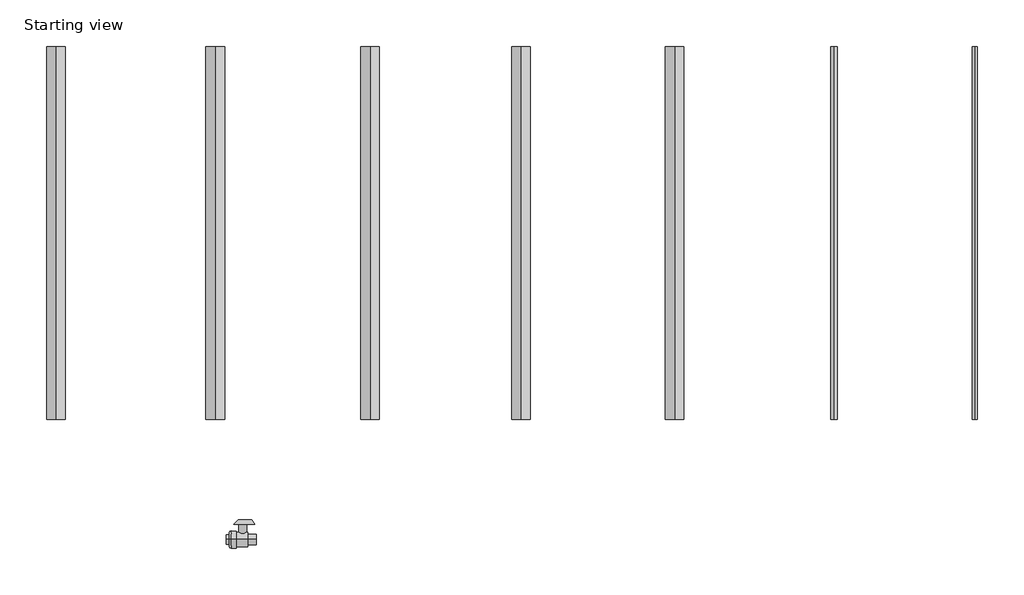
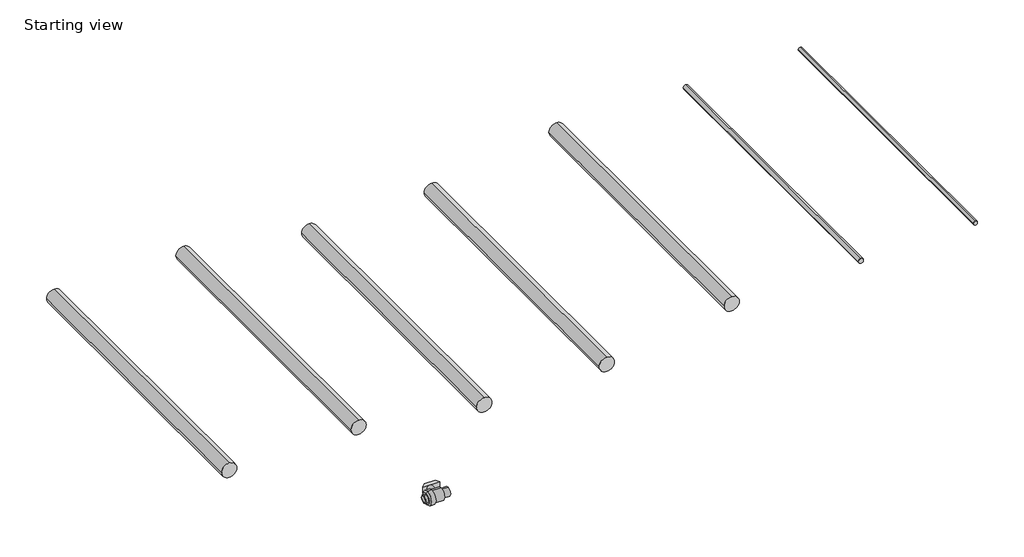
# One storey, incomplete: 7 pipe segments, 1 pipe fitting.
"""IFC4 building model written with IfcOpenShell, lengths in millimetres."""

import ifcopenshell
import ifcopenshell.guid

model = None  # the IFC model being written
_history = None  # IfcOwnerHistory: only IFC2X3 demands one
_inside = {}  # id of a spatial element -> (the spatial element, [elements in it])
_under = {}  # id of a project, library or spatial element -> (it, [spatial elements below it])
_declared = {}  # id of a project -> (the project, [libraries it declares])
_typed = {}  # id of a type object -> (the type object, [elements of that type])
_made_of = {}  # id of a material, layer set ... -> (it, [elements and type objects made of it])


def new_model(schema):
    """Start an empty IFC model of exactly this schema.

    Asked for "IFC4X3", IfcOpenShell would pick the latest addendum, in which some entities
    have other attributes; the version numbers below select the first issue.
    IFC2X3 requires an IfcOwnerHistory on every rooted entity: one is made here for all.
    """
    global model, _history
    if schema == "IFC4X3":
        model = ifcopenshell.file(schema_version=(4, 3, 0, 0))
    else:
        model = ifcopenshell.file(schema=schema)
    _inside.clear()
    _under.clear()
    _declared.clear()
    _typed.clear()
    _made_of.clear()
    _history = None
    if model.schema == "IFC2X3":
        org = make("IfcOrganization", Name="unknown")
        user = make(
            "IfcPersonAndOrganization",
            ThePerson=make("IfcPerson", FamilyName="unknown"),
            TheOrganization=org,
        )
        app = make(
            "IfcApplication",
            ApplicationDeveloper=org,
            Version="unknown",
            ApplicationFullName="unknown",
            ApplicationIdentifier="unknown",
        )
        _history = make(
            "IfcOwnerHistory",
            OwningUser=user,
            OwningApplication=app,
            ChangeAction="ADDED",
            CreationDate=0,
        )
    return model


def make(cls, **values):
    """One entity of the class cls with the attributes given. An attribute that is None is left unset."""
    return model.create_entity(
        cls, **{name: value for name, value in values.items() if value is not None}
    )


def rooted(cls, **values):
    """An entity with a GlobalId (a new one), such as an element, a storey or a relation."""
    return make(cls, GlobalId=ifcopenshell.guid.new(), OwnerHistory=_history, **values)


def si_unit(unit_type, name, prefix=None):
    """IfcSIUnit, for example si_unit("LENGTHUNIT", "METRE", prefix="MILLI")."""
    return make("IfcSIUnit", UnitType=unit_type, Prefix=prefix, Name=name)


def assignment(units):
    """IfcUnitAssignment: the units of a project."""
    return None if units is None else make("IfcUnitAssignment", Units=units)


def point(xyz):
    """IfcCartesianPoint."""
    return None if xyz is None else make("IfcCartesianPoint", Coordinates=xyz)


def direction(xyz):
    """IfcDirection."""
    return None if xyz is None else make("IfcDirection", DirectionRatios=xyz)


def frame(location, z_axis=None, x_axis=None):
    """IfcAxis2Placement3D, a coordinate frame: its origin and axes. An axis left out is left unset."""
    return make(
        "IfcAxis2Placement3D",
        Location=point(location),
        Axis=direction(z_axis),
        RefDirection=direction(x_axis),
    )


def frame_2d(location, x_axis=None):
    """IfcAxis2Placement2D, a coordinate frame in the plane: its origin and x axis."""
    return make(
        "IfcAxis2Placement2D", Location=point(location), RefDirection=direction(x_axis)
    )


def origin():
    """The frame at (0, 0, 0) with its axes left unset."""
    return frame((0.0, 0.0, 0.0))


def origin_with_axes():
    """The frame at (0, 0, 0) with the z axis (0, 0, 1) and the x axis (1, 0, 0) written out."""
    return frame((0.0, 0.0, 0.0), z_axis=(0.0, 0.0, 1.0), x_axis=(1.0, 0.0, 0.0))


def place(relative_to, where):
    """IfcLocalPlacement: puts the frame where relative to a parent placement (None: the world)."""
    return make(
        "IfcLocalPlacement", PlacementRelTo=relative_to, RelativePlacement=where
    )


def context(
    kind, dimensions, precision=None, world=None, true_north=None, identifier=None
):
    """IfcGeometricRepresentationContext, for example the 3D "Model" context."""
    return make(
        "IfcGeometricRepresentationContext",
        ContextIdentifier=identifier,
        ContextType=kind,
        CoordinateSpaceDimension=dimensions,
        Precision=precision,
        WorldCoordinateSystem=world,
        TrueNorth=true_north,
    )


def project(units=None, contexts=None):
    """IfcProject with its units and contexts."""
    return rooted(
        "IfcProject",
        Name="project",
        RepresentationContexts=contexts,
        UnitsInContext=assignment(units),
    )


def spatial(cls, under=None, at=None, **own):
    """A site, building, storey or space (cls), placed at a placement, below another one or the project."""
    s = rooted(cls, ObjectPlacement=at, **own)
    if under is not None:
        _under.setdefault(under.id(), (under, []))[1].append(s)
    return s


def polyline(points):
    """IfcPolyline through the points."""
    return make("IfcPolyline", Points=[point(p) for p in points])


def circle_curve(where, radius):
    """IfcCircle in the frame where."""
    return make("IfcCircle", Position=where, Radius=radius)


def ellipse_curve(where, semi_axis1, semi_axis2):
    """IfcEllipse in the frame where."""
    return make(
        "IfcEllipse", Position=where, SemiAxis1=semi_axis1, SemiAxis2=semi_axis2
    )


def trimmed(basis, trim1, trim2, sense, master):
    """IfcTrimmedCurve: the piece of a basis curve between two trims."""
    return make(
        "IfcTrimmedCurve",
        BasisCurve=basis,
        Trim1=trim1,
        Trim2=trim2,
        SenseAgreement=sense,
        MasterRepresentation=master,
    )


def segment(curve, same_sense, transition):
    """IfcCompositeCurveSegment."""
    return make(
        "IfcCompositeCurveSegment",
        Transition=transition,
        SameSense=same_sense,
        ParentCurve=curve,
    )


def composite_curve(segments, self_intersect=None):
    """IfcCompositeCurve: segments joined end to end."""
    return make("IfcCompositeCurve", Segments=segments, SelfIntersect=self_intersect)


def outline(outer, holes=None, kind="AREA"):
    """IfcArbitraryClosedProfileDef: a profile drawn as a closed curve; with holes, ...WithVoids."""
    if holes is None:
        return make("IfcArbitraryClosedProfileDef", ProfileType=kind, OuterCurve=outer)
    return make(
        "IfcArbitraryProfileDefWithVoids",
        ProfileType=kind,
        OuterCurve=outer,
        InnerCurves=holes,
    )


def extrude(swept, where, along, depth):
    """IfcExtrudedAreaSolid: the profile swept, set in the frame where, extruded along a direction by depth."""
    return make(
        "IfcExtrudedAreaSolid",
        SweptArea=swept,
        Position=where,
        ExtrudedDirection=direction(along),
        Depth=depth,
    )


def shape(context_of_items, identifier, shape_type, items):
    """IfcShapeRepresentation: the items that make up one representation, for example the "Body"."""
    return make(
        "IfcShapeRepresentation",
        ContextOfItems=context_of_items,
        RepresentationIdentifier=identifier,
        RepresentationType=shape_type,
        Items=items,
    )


def source(mapping_origin, context_of_items, identifier, shape_type, items):
    """IfcRepresentationMap: a shape defined once, which mapped items show again and again."""
    return make(
        "IfcRepresentationMap",
        MappingOrigin=mapping_origin,
        MappedRepresentation=shape(context_of_items, identifier, shape_type, items),
    )


def transform(
    local_origin,
    x_axis=None,
    y_axis=None,
    z_axis=None,
    scale=None,
    scale2=None,
    scale3=None,
    uniform=True,
):
    """IfcCartesianTransformationOperator3D, or its non-uniform kind. x_axis, y_axis, z_axis: its Axis1, 2, 3."""
    if uniform:
        return make(
            "IfcCartesianTransformationOperator3D",
            Axis1=direction(x_axis),
            Axis2=direction(y_axis),
            LocalOrigin=point(local_origin),
            Scale=scale,
            Axis3=direction(z_axis),
        )
    return make(
        "IfcCartesianTransformationOperator3DnonUniform",
        Axis1=direction(x_axis),
        Axis2=direction(y_axis),
        LocalOrigin=point(local_origin),
        Scale=scale,
        Axis3=direction(z_axis),
        Scale2=scale2,
        Scale3=scale3,
    )


def mapped(mapping_source, mapping_target):
    """IfcMappedItem: shows the shape of a source again, moved by a transform."""
    return make(
        "IfcMappedItem", MappingSource=mapping_source, MappingTarget=mapping_target
    )


def made_of(thing, what):
    """Note that an element or type object is made of a material, layer set ...; save() writes the relation."""
    if what is not None:
        _made_of.setdefault(what.id(), (what, []))[1].append(thing)
    return thing


def element(
    cls,
    number,
    at=None,
    inside=None,
    cuts=None,
    type_object=None,
    material=None,
    context=None,
    identifier="Body",
    shape_type=None,
    held_by="IfcProductDefinitionShape",
    body=None,
    shapes=None,
    **own,
):
    """One element of the class cls, such as IfcWall. Its Tag is "e" and its number.

    at: its placement. inside: the storey or other place that contains it. cuts: it is an
    opening in that element (IfcRelVoidsElement). A single representation is given by context,
    identifier, shape_type and body (its items); several are given by shapes. held_by: the class
    of the entity that holds the representations. save() writes the other relations.
    """
    e = rooted(cls, Tag="e%d" % number, ObjectPlacement=at, **own)
    if body is not None:
        shapes = [shape(context, identifier, shape_type, body)]
    if shapes is not None:
        e.Representation = make(held_by, Representations=shapes)
    if inside is not None:
        _inside.setdefault(inside.id(), (inside, []))[1].append(e)
    if cuts is not None:
        rooted(
            "IfcRelVoidsElement", RelatingBuildingElement=cuts, RelatedOpeningElement=e
        )
    if type_object is not None:
        _typed.setdefault(type_object.id(), (type_object, []))[1].append(e)
    return made_of(e, material)


def aggregate(whole, parts):
    """IfcRelAggregates: a whole, such as a stair, and the parts it consists of."""
    return rooted("IfcRelAggregates", RelatingObject=whole, RelatedObjects=parts)


def save(model, path):
    """Write the relations noted so far, then the file.

    IfcRelAggregates (storeys below a building ...), IfcRelContainedInSpatialStructure (elements
    in a storey), IfcRelDefinesByType, IfcRelAssociatesMaterial and IfcRelDeclares: one each for
    every whole, place, type object, material and project.
    """
    for whole, parts in _under.values():
        aggregate(whole, parts)
    for where, things in _inside.values():
        rooted(
            "IfcRelContainedInSpatialStructure",
            RelatedElements=things,
            RelatingStructure=where,
        )
    for kind, things in _typed.values():
        rooted("IfcRelDefinesByType", RelatedObjects=things, RelatingType=kind)
    for what, things in _made_of.values():
        rooted("IfcRelAssociatesMaterial", RelatedObjects=things, RelatingMaterial=what)
    for by, libraries in _declared.values():
        rooted("IfcRelDeclares", RelatingContext=by, RelatedDefinitions=libraries)
    model.write(path)


def plane_surface(at):
    """IfcPlane: the flat surface through the origin of the frame at, square to its z axis."""
    return make("IfcPlane", Position=at)


def cylinder_surface(at, radius):
    """IfcCylindricalSurface: all points at the distance radius from the z axis of the frame at."""
    return make("IfcCylindricalSurface", Position=at, Radius=radius)


def revolved_surface(curve, axis_point, axis_direction):
    """IfcSurfaceOfRevolution: the curve turned about the line through axis_point along axis_direction."""
    return make(
        "IfcSurfaceOfRevolution",
        SweptCurve=make("IfcArbitraryOpenProfileDef", ProfileType="CURVE", Curve=curve),
        AxisPosition=make("IfcAxis1Placement", Location=point(axis_point), Axis=direction(axis_direction)),
    )


def advanced_brep(points, edges, surfaces, faces):
    """IfcAdvancedBrep: a solid bounded by faces that lie on surfaces and meet in shared edges.

    An edge is (start, end): straight between two places in points (the first is 0);
    or (start, end, curve); or (start, end, curve, False) where it runs against its curve.
    A face is (place in surfaces, loops), or (place, loops, False) where it looks against
    its surface's normal. A loop lists edges by number (the first is 1), with a minus sign
    where the edge is run from its end to its start. The first loop is the outer one.
    """
    corners = [point(p) for p in points]
    vertices = [make("IfcVertexPoint", VertexGeometry=c) for c in corners]
    made = []
    for start, end, *more in edges:
        made.append(
            make(
                "IfcEdgeCurve",
                EdgeStart=vertices[start],
                EdgeEnd=vertices[end],
                EdgeGeometry=more[0] if more else make("IfcPolyline", Points=[corners[start], corners[end]]),
                SameSense=more[1] if len(more) > 1 else True,
            )
        )
    hull = []
    for where, loops, *sense in faces:
        bounds = []
        for j, loop in enumerate(loops):
            ring = [make("IfcOrientedEdge", EdgeElement=made[abs(k) - 1], Orientation=k > 0) for k in loop]
            bounds.append(
                make(
                    "IfcFaceOuterBound" if j == 0 else "IfcFaceBound",
                    Bound=make("IfcEdgeLoop", EdgeList=ring),
                    Orientation=True,
                )
            )
        hull.append(make("IfcAdvancedFace", Bounds=bounds, FaceSurface=surfaces[where], SameSense=sense[0] if sense else True))
    return make("IfcAdvancedBrep", Outer=make("IfcClosedShell", CfsFaces=hull))


def var_ca1771e9(model_context):
    return source(origin(), model_context, "Body", "SolidModel", [
        extrude(outline(polyline([(61.7, -106.5026442), (61.7, -21.6526442), (79.8261557, -34.3447151), (79.8261557, -87.300279), (61.7, -106.5026442)])), frame((0.0, -15.775, 0.0), z_axis=(0.0, 1.0, 0.0), x_axis=(0.0, 0.0, 1.0)), (0.0, 0.0, 1.0), 31.55),
        extrude(outline(composite_curve([segment(trimmed(circle_curve(frame_2d((-70.4026442, 0.0)), 15.775), [point((-86.1776442, 0.0))], [point((-54.6276442, 0.0))], False, "CARTESIAN"), True, "CONTINUOUS"), segment(trimmed(circle_curve(frame_2d((-70.4026442, 0.0)), 15.775), [point((-54.6276442, 0.0))], [point((-86.1776442, 0.0))], False, "CARTESIAN"), True, "CONTINUOUS")], self_intersect=False)), origin_with_axes(), (0.0, 0.0, 1.0), 61.7),
        advanced_brep(
        [(-112.8026442, -16.15, 0.0), (-112.8026442, 16.15, 0.0), (-136.6526442, 16.15, 0.0), (-136.6526442, -16.15, 0.0), (-112.8026442, 0.0, 0.0), (-49.5526442, -16.15, 0.0), (-49.5526442, 16.15, 0.0), (-49.5526442, 0.0, 0.0), (-15.3026442, -16.15, 0.0), (-15.3026442, 16.15, 0.0), (-15.3026442, -21.81, 0.0), (-15.3026442, 21.81, 0.0), (-49.5526442, -21.81, 0.0), (-49.5526442, 21.81, 0.0), (-49.5526442, -30.09, 0.0), (-49.5526442, 30.09, 0.0), (-95.4526442, -30.09, 0.0), (-95.4526442, 30.09, 0.0), (-95.4526442, -35.4, 0.0), (-95.4526442, 35.4, 0.0), (-116.7478823, -35.4, 0.0), (-116.7478823, 35.4, 0.0), (-123.4026442, -28.7452381, 0.0), (-123.4026442, 28.7452381, 0.0), (-123.4026442, -20.05, 0.0), (-123.4026442, 20.05, 0.0), (-136.6526442, -20.05, 0.0), (-136.6526442, 20.05, 0.0)],
        [
            (0, 1, circle_curve(frame((-112.8026442, 0.0, 0.0), z_axis=(1.0, 0.0, 0.0), x_axis=(0.0, 1.0, 0.0)), 16.15)),
            (1, 2),
            (2, 3, circle_curve(frame((-136.6526442, 0.0, 0.0), z_axis=(-1.0, 0.0, 0.0), x_axis=(0.0, 1.0, 0.0)), 16.15)),
            (3, 0),
            (1, 0, circle_curve(frame((-112.8026442, 0.0, 0.0), z_axis=(1.0, 0.0, 0.0), x_axis=(0.0, 1.0, 0.0)), 16.15)),
            (3, 2, circle_curve(frame((-136.6526442, 0.0, 0.0), z_axis=(-1.0, 0.0, 0.0), x_axis=(0.0, 1.0, 0.0)), 16.15)),
            (4, 1),
            (0, 4),
            (5, 6, circle_curve(frame((-49.5526442, 0.0, 0.0), z_axis=(1.0, 0.0, 0.0), x_axis=(0.0, 1.0, 0.0)), 16.15)),
            (6, 7),
            (7, 5),
            (6, 5, circle_curve(frame((-49.5526442, 0.0, 0.0), z_axis=(1.0, 0.0, 0.0), x_axis=(0.0, 1.0, 0.0)), 16.15)),
            (8, 9, circle_curve(frame((-15.3026442, 0.0, 0.0), z_axis=(1.0, 0.0, 0.0), x_axis=(0.0, 1.0, 0.0)), 16.15)),
            (9, 6),
            (5, 8),
            (9, 8, circle_curve(frame((-15.3026442, 0.0, 0.0), z_axis=(1.0, 0.0, 0.0), x_axis=(0.0, 1.0, 0.0)), 16.15)),
            (10, 11, circle_curve(frame((-15.3026442, 0.0, 0.0), z_axis=(1.0, 0.0, 0.0), x_axis=(0.0, 1.0, 0.0)), 21.81)),
            (11, 9),
            (8, 10),
            (11, 10, circle_curve(frame((-15.3026442, 0.0, 0.0), z_axis=(1.0, 0.0, 0.0), x_axis=(0.0, 1.0, 0.0)), 21.81)),
            (12, 13, circle_curve(frame((-49.5526442, 0.0, 0.0), z_axis=(1.0, 0.0, 0.0), x_axis=(0.0, 1.0, 0.0)), 21.81)),
            (13, 11),
            (10, 12),
            (13, 12, circle_curve(frame((-49.5526442, 0.0, 0.0), z_axis=(1.0, 0.0, 0.0), x_axis=(0.0, 1.0, 0.0)), 21.81)),
            (14, 15, circle_curve(frame((-49.5526442, 0.0, 0.0), z_axis=(1.0, 0.0, 0.0), x_axis=(0.0, 1.0, 0.0)), 30.09)),
            (15, 13),
            (12, 14),
            (15, 14, circle_curve(frame((-49.5526442, 0.0, 0.0), z_axis=(1.0, 0.0, 0.0), x_axis=(0.0, 1.0, 0.0)), 30.09)),
            (16, 17, circle_curve(frame((-95.4526442, 0.0, 0.0), z_axis=(1.0, 0.0, 0.0), x_axis=(0.0, 1.0, 0.0)), 30.09)),
            (17, 15),
            (14, 16),
            (17, 16, circle_curve(frame((-95.4526442, 0.0, 0.0), z_axis=(1.0, 0.0, 0.0), x_axis=(0.0, 1.0, 0.0)), 30.09)),
            (18, 19, circle_curve(frame((-95.4526442, 0.0, 0.0), z_axis=(1.0, 0.0, 0.0), x_axis=(0.0, 1.0, 0.0)), 35.4)),
            (19, 17),
            (16, 18),
            (19, 18, circle_curve(frame((-95.4526442, 0.0, 0.0), z_axis=(1.0, 0.0, 0.0), x_axis=(0.0, 1.0, 0.0)), 35.4)),
            (20, 21, circle_curve(frame((-116.7478823, 0.0, 0.0), z_axis=(1.0, 0.0, 0.0), x_axis=(0.0, 1.0, 0.0)), 35.4)),
            (21, 19),
            (18, 20),
            (21, 20, circle_curve(frame((-116.7478823, 0.0, 0.0), z_axis=(1.0, 0.0, 0.0), x_axis=(0.0, 1.0, 0.0)), 35.4)),
            (22, 23, circle_curve(frame((-123.4026442, 0.0, 0.0), z_axis=(1.0, 0.0, 0.0), x_axis=(0.0, 1.0, 0.0)), 28.7452381)),
            (23, 21, circle_curve(frame((-116.7478823, 28.7452381, 0.0), z_axis=(0.0, 0.0, -1.0), x_axis=(1.0, 0.0, 0.0)), 6.6547619)),
            (20, 22, circle_curve(frame((-116.7478823, -28.7452381, 0.0), z_axis=(0.0, 0.0, -1.0), x_axis=(1.0, 0.0, 0.0)), 6.6547619)),
            (23, 22, circle_curve(frame((-123.4026442, 0.0, 0.0), z_axis=(1.0, 0.0, 0.0), x_axis=(0.0, 1.0, 0.0)), 28.7452381)),
            (24, 25, circle_curve(frame((-123.4026442, 0.0, 0.0), z_axis=(1.0, 0.0, 0.0), x_axis=(0.0, 1.0, 0.0)), 20.05)),
            (25, 23),
            (22, 24),
            (25, 24, circle_curve(frame((-123.4026442, 0.0, 0.0), z_axis=(1.0, 0.0, 0.0), x_axis=(0.0, 1.0, 0.0)), 20.05)),
            (26, 27, circle_curve(frame((-136.6526442, 0.0, 0.0), z_axis=(1.0, 0.0, 0.0), x_axis=(0.0, 1.0, 0.0)), 20.05)),
            (27, 25),
            (24, 26),
            (27, 26, circle_curve(frame((-136.6526442, 0.0, 0.0), z_axis=(1.0, 0.0, 0.0), x_axis=(0.0, 1.0, 0.0)), 20.05)),
            (2, 27),
            (26, 3),
        ],
        [
            revolved_surface(polyline([(-136.65264419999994, 16.15, 0.0), (-112.80264420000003, 16.15, 0.0)]), (-2066.1526442, 0.0, 0.0), (-1.0, 0.0, 0.0)),
            plane_surface(frame((-112.8026442, 0.0, 0.0), z_axis=(-1.0, 0.0, 0.0), x_axis=(0.0, 1.0, 0.0))),
            plane_surface(frame((-49.5526442, 0.0, 0.0), z_axis=(1.0, 0.0, 0.0), x_axis=(0.0, 1.0, 0.0))),
            revolved_surface(polyline([(-49.55264420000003, 16.15, 0.0), (-15.302644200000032, 16.15, 0.0)]), (-2066.1526442, 0.0, 0.0), (-1.0, 0.0, 0.0)),
            plane_surface(frame((-15.3026442, 0.0, 0.0), z_axis=(1.0, 0.0, 0.0), x_axis=(0.0, 1.0, 0.0))),
            cylinder_surface(frame((-2066.1526442, 0.0, 0.0), z_axis=(-1.0, 0.0, 0.0), x_axis=(0.0, 1.0, 0.0)), 21.81),
            cylinder_surface(frame((-2066.1526442, 0.0, 0.0), z_axis=(-1.0, 0.0, 0.0), x_axis=(0.0, 1.0, 0.0)), 30.09),
            plane_surface(frame((-95.4526442, 0.0, 0.0), z_axis=(1.0, 0.0, 0.0), x_axis=(0.0, 1.0, 0.0))),
            cylinder_surface(frame((-2066.1526442, 0.0, 0.0), z_axis=(-1.0, 0.0, 0.0), x_axis=(0.0, 1.0, 0.0)), 35.4),
            revolved_surface(trimmed(ellipse_curve(frame((-116.7478823, 28.7452381, 0.0), z_axis=(0.0, 0.0, 1.0), x_axis=(1.0, 0.0, 0.0)), 6.6547619, 6.6547619), [point((-116.7478823, 35.4, 0.0))], [point((-123.4026442, 28.7452381, 0.0))], True, "CARTESIAN"), (-2066.1526442, 0.0, 0.0), (-1.0, 0.0, 0.0)),
            plane_surface(frame((-123.4026442, 0.0, 0.0), z_axis=(-1.0, 0.0, 0.0), x_axis=(0.0, 1.0, 0.0))),
            cylinder_surface(frame((-2066.1526442, 0.0, 0.0), z_axis=(-1.0, 0.0, 0.0), x_axis=(0.0, 1.0, 0.0)), 20.05),
            plane_surface(frame((-136.6526442, 0.0, 0.0), z_axis=(-1.0, 0.0, 0.0), x_axis=(0.0, 1.0, 0.0))),
        ],
        [
            (0, [[1, 2, 3, 4]]),
            (0, [[5, -4, 6, -2]]),
            (1, [[7, -1, 8]]),
            (1, [[-8, -5, -7]]),
            (2, [[9, 10, 11]]),
            (2, [[12, -11, -10]]),
            (3, [[13, 14, -9, 15]]),
            (3, [[16, -15, -12, -14]]),
            (4, [[17, 18, -13, 19]]),
            (4, [[20, -19, -16, -18]]),
            (5, [[21, 22, -17, 23]]),
            (5, [[24, -23, -20, -22]]),
            (2, [[25, 26, -21, 27]]),
            (2, [[28, -27, -24, -26]]),
            (6, [[29, 30, -25, 31]]),
            (6, [[32, -31, -28, -30]]),
            (7, [[33, 34, -29, 35]]),
            (7, [[36, -35, -32, -34]]),
            (8, [[37, 38, -33, 39]]),
            (8, [[40, -39, -36, -38]]),
            (9, [[41, 42, -37, 43]]),
            (9, [[44, -43, -40, -42]]),
            (10, [[45, 46, -41, 47]]),
            (10, [[48, -47, -44, -46]]),
            (11, [[49, 50, -45, 51]]),
            (11, [[52, -51, -48, -50]]),
            (12, [[-3, 53, -49, 54]]),
            (12, [[-6, -54, -52, -53]]),
        ],
    ),
    ])


model = new_model("IFC4")

# Units and contexts
model_context = context("Model", 3, world=origin())
ifc_project = project(units=[si_unit("LENGTHUNIT", "METRE", prefix="MILLI")], contexts=[model_context])

# Site, building, storey
site = spatial("IfcSite", under=ifc_project)
building = spatial("IfcBuilding", under=site)
storey = spatial("IfcBuildingStorey", under=building, Name="Starting view", Elevation=0.0)

# Pipe fitting
placement = place(None, origin())
var_shape = var_ca1771e9(model_context)
element("IfcPipeFitting", 1, ObjectType="PlastigamaWavin_Unionesdetubería_PresiónPVC_VálvulaBola20mm-90mm : Var.", at=placement, inside=storey, context=model_context, shape_type="MappedRepresentation", body=[
    mapped(var_shape, transform((-18512.5741365, 14555.0905579, 0.0), x_axis=(1.0, 0.0, 0.0), y_axis=(0.0, 0.0, -1.0), z_axis=(0.0, 1.0, 0.0))),
])

# Pipe segments
element("IfcPipeSegment", 2, ObjectType="Plastigama Presión Espigo Campana 0.8MPa", at=placement, inside=storey, context=model_context, shape_type="SweptSolid", body=[
    extrude(outline(composite_curve([segment(trimmed(circle_curve(frame_2d((0.0, -18070.689296)), 37.5), [point((0.0, -18108.189296))], [point((-37.5, -18070.689296))], False, "CARTESIAN"), True, "CONTINUOUS"), segment(trimmed(circle_curve(frame_2d((0.0, -18070.689296)), 37.5), [point((-37.5, -18070.689296))], [point((0.0, -18033.189296))], False, "CARTESIAN"), True, "CONTINUOUS"), segment(trimmed(circle_curve(frame_2d((0.0, -18070.689296)), 37.5), [point((0.0, -18033.189296))], [point((37.5, -18070.689296))], False, "CARTESIAN"), True, "CONTINUOUS"), segment(trimmed(circle_curve(frame_2d((0.0, -18070.689296)), 37.5), [point((37.5, -18070.689296))], [point((0.0, -18108.189296))], False, "CARTESIAN"), True, "CONTINUOUS")], self_intersect=False)), frame((0.0, 15037.6709808, 0.0), z_axis=(0.0, 1.0, 0.0), x_axis=(0.0, 0.0, 1.0)), (0.0, 0.0, 1.0), 1500.0),
])
element("IfcPipeSegment", 3, ObjectType="Plastigama Presión Espigo Campana 1.0MPa", at=placement, inside=storey, context=model_context, shape_type="SweptSolid", body=[
    extrude(outline(composite_curve([segment(trimmed(circle_curve(frame_2d((0.0, -17464.3434847)), 37.5), [point((0.0, -17501.8434847))], [point((-37.5, -17464.3434847))], False, "CARTESIAN"), True, "CONTINUOUS"), segment(trimmed(circle_curve(frame_2d((0.0, -17464.3434847)), 37.5), [point((-37.5, -17464.3434847))], [point((0.0, -17426.8434847))], False, "CARTESIAN"), True, "CONTINUOUS"), segment(trimmed(circle_curve(frame_2d((0.0, -17464.3434847)), 37.5), [point((0.0, -17426.8434847))], [point((37.5, -17464.3434847))], False, "CARTESIAN"), True, "CONTINUOUS"), segment(trimmed(circle_curve(frame_2d((0.0, -17464.3434847)), 37.5), [point((37.5, -17464.3434847))], [point((0.0, -17501.8434847))], False, "CARTESIAN"), True, "CONTINUOUS")], self_intersect=False)), frame((0.0, 15037.6709808, 0.0), z_axis=(0.0, 1.0, 0.0), x_axis=(0.0, 0.0, 1.0)), (0.0, 0.0, 1.0), 1500.0),
])
element("IfcPipeSegment", 4, ObjectType="Plastigama Presión Espigo Campana 0.63MPa", at=placement, inside=storey, context=model_context, shape_type="SweptSolid", body=[
    extrude(outline(composite_curve([segment(trimmed(circle_curve(frame_2d((100.0, -18692.8292461)), 37.5), [point((100.0, -18730.3292461))], [point((62.5, -18692.8292461))], False, "CARTESIAN"), True, "CONTINUOUS"), segment(trimmed(circle_curve(frame_2d((100.0, -18692.8292461)), 37.5), [point((62.5, -18692.8292461))], [point((100.0, -18655.3292461))], False, "CARTESIAN"), True, "CONTINUOUS"), segment(trimmed(circle_curve(frame_2d((100.0, -18692.8292461)), 37.5), [point((100.0, -18655.3292461))], [point((137.5, -18692.8292461))], False, "CARTESIAN"), True, "CONTINUOUS"), segment(trimmed(circle_curve(frame_2d((100.0, -18692.8292461)), 37.5), [point((137.5, -18692.8292461))], [point((100.0, -18730.3292461))], False, "CARTESIAN"), True, "CONTINUOUS")], self_intersect=False)), frame((0.0, 15037.6709808, 0.0), z_axis=(0.0, 1.0, 0.0), x_axis=(0.0, 0.0, 1.0)), (0.0, 0.0, 1.0), 1500.0),
])
element("IfcPipeSegment", 5, ObjectType="Plastigama Presión Espigo Campana 1.25MPa", at=placement, inside=storey, context=model_context, shape_type="SweptSolid", body=[
    extrude(outline(composite_curve([segment(trimmed(circle_curve(frame_2d((100.0, -16846.9946653)), 37.5), [point((100.0, -16884.4946653))], [point((62.5, -16846.9946653))], False, "CARTESIAN"), True, "CONTINUOUS"), segment(trimmed(circle_curve(frame_2d((100.0, -16846.9946653)), 37.5), [point((62.5, -16846.9946653))], [point((100.0, -16809.4946653))], False, "CARTESIAN"), True, "CONTINUOUS"), segment(trimmed(circle_curve(frame_2d((100.0, -16846.9946653)), 37.5), [point((100.0, -16809.4946653))], [point((137.5, -16846.9946653))], False, "CARTESIAN"), True, "CONTINUOUS"), segment(trimmed(circle_curve(frame_2d((100.0, -16846.9946653)), 37.5), [point((137.5, -16846.9946653))], [point((100.0, -16884.4946653))], False, "CARTESIAN"), True, "CONTINUOUS")], self_intersect=False)), frame((0.0, 15037.6709808, 0.0), z_axis=(0.0, 1.0, 0.0), x_axis=(0.0, 0.0, 1.0)), (0.0, 0.0, 1.0), 1500.0),
])
element("IfcPipeSegment", 6, ObjectType="Plastigama Presión Espigo Campana 2.0MPa", at=placement, inside=storey, context=model_context, shape_type="SweptSolid", body=[
    extrude(outline(composite_curve([segment(trimmed(circle_curve(frame_2d((100.0, -15640.3722802)), 10.0), [point((100.0, -15650.3722802))], [point((90.0, -15640.3722802))], False, "CARTESIAN"), True, "CONTINUOUS"), segment(trimmed(circle_curve(frame_2d((100.0, -15640.3722802)), 10.0), [point((90.0, -15640.3722802))], [point((100.0, -15630.3722802))], False, "CARTESIAN"), True, "CONTINUOUS"), segment(trimmed(circle_curve(frame_2d((100.0, -15640.3722802)), 10.0), [point((100.0, -15630.3722802))], [point((110.0, -15640.3722802))], False, "CARTESIAN"), True, "CONTINUOUS"), segment(trimmed(circle_curve(frame_2d((100.0, -15640.3722802)), 10.0), [point((110.0, -15640.3722802))], [point((100.0, -15650.3722802))], False, "CARTESIAN"), True, "CONTINUOUS")], self_intersect=False)), frame((0.0, 15037.6709808, 0.0), z_axis=(0.0, 1.0, 0.0), x_axis=(0.0, 0.0, 1.0)), (0.0, 0.0, 1.0), 1500.0),
])
element("IfcPipeSegment", 7, ObjectType="Plastigama Presión Espigo Campana 1.6MPa", at=placement, inside=storey, context=model_context, shape_type="SweptSolid", body=[
    extrude(outline(composite_curve([segment(trimmed(circle_curve(frame_2d((100.0, -16207.0893297)), 12.5), [point((100.0, -16219.5893297))], [point((87.5, -16207.0893297))], False, "CARTESIAN"), True, "CONTINUOUS"), segment(trimmed(circle_curve(frame_2d((100.0, -16207.0893297)), 12.5), [point((87.5, -16207.0893297))], [point((100.0, -16194.5893297))], False, "CARTESIAN"), True, "CONTINUOUS"), segment(trimmed(circle_curve(frame_2d((100.0, -16207.0893297)), 12.5), [point((100.0, -16194.5893297))], [point((112.5, -16207.0893297))], False, "CARTESIAN"), True, "CONTINUOUS"), segment(trimmed(circle_curve(frame_2d((100.0, -16207.0893297)), 12.5), [point((112.5, -16207.0893297))], [point((100.0, -16219.5893297))], False, "CARTESIAN"), True, "CONTINUOUS")], self_intersect=False)), frame((0.0, 15037.6709808, 0.0), z_axis=(0.0, 1.0, 0.0), x_axis=(0.0, 0.0, 1.0)), (0.0, 0.0, 1.0), 1500.0),
])
element("IfcPipeSegment", 8, ObjectType="Plastigama Presión Espigo Campana 0.5MPa", at=placement, inside=storey, context=model_context, shape_type="SweptSolid", body=[
    extrude(outline(composite_curve([segment(trimmed(circle_curve(frame_2d((100.0, -19333.1166854)), 37.5), [point((100.0, -19370.6166854))], [point((62.5, -19333.1166854))], False, "CARTESIAN"), True, "CONTINUOUS"), segment(trimmed(circle_curve(frame_2d((100.0, -19333.1166854)), 37.5), [point((62.5, -19333.1166854))], [point((100.0, -19295.6166854))], False, "CARTESIAN"), True, "CONTINUOUS"), segment(trimmed(circle_curve(frame_2d((100.0, -19333.1166854)), 37.5), [point((100.0, -19295.6166854))], [point((137.5, -19333.1166854))], False, "CARTESIAN"), True, "CONTINUOUS"), segment(trimmed(circle_curve(frame_2d((100.0, -19333.1166854)), 37.5), [point((137.5, -19333.1166854))], [point((100.0, -19370.6166854))], False, "CARTESIAN"), True, "CONTINUOUS")], self_intersect=False)), frame((0.0, 15037.6709808, 0.0), z_axis=(0.0, 1.0, 0.0), x_axis=(0.0, 0.0, 1.0)), (0.0, 0.0, 1.0), 1500.0),
])

save(model, "model.ifc")
